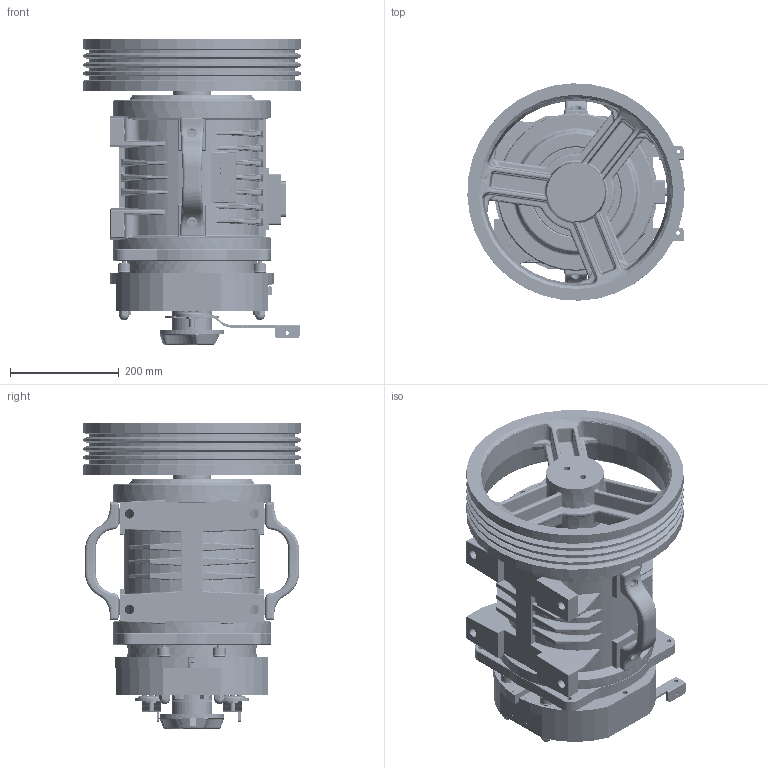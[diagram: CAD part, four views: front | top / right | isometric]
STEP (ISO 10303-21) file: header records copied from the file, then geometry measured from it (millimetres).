
FILE_DESCRIPTION (( 'STEP AP214' ), '1' );
FILE_NAME ('QS14032100.STEP', '2025-12-23T08:42:00', ( '' ), ( '' ), 'SwSTEP 2.0', 'SolidWorks 2023', '' );
FILE_SCHEMA (( 'AUTOMOTIVE_DESIGN' ));
Length unit declared in the file: millimetre
Products named in the file (1): QS14032100
Bounding box: 399.76 x 399.76 x 562.72 mm (x, y, z)
Volume: 21743658.4 mm3; surface area: 3868479.1 mm2
Topology: 72 solids, 72 shells, 5569 faces, 13959 edges, 8470 vertices
Faces by surface type: cylinder 2132, plane 1416, bspline 1075, cone 399, sphere 321, torus 226
Entity records: 194269 total; most frequent: CARTESIAN_POINT 68795, ORIENTED_EDGE 27312, DIRECTION 25139, EDGE_CURVE 13656, AXIS2_PLACEMENT_3D 9885, VERTEX_POINT 8424, EDGE_LOOP 6052, ADVANCED_FACE 5569
